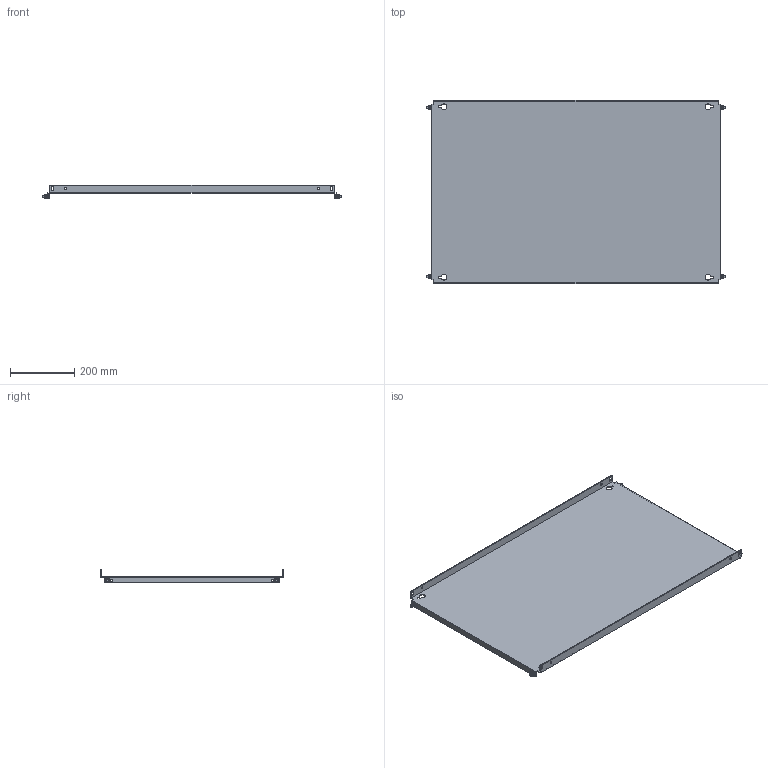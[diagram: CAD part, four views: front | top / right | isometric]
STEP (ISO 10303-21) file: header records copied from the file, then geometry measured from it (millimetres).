
FILE_DESCRIPTION(('Open CASCADE Model'),'2;1');
FILE_NAME('Open CASCADE Shape Model','2025-02-20T13:24:39',('Author'),( 'Open CASCADE'),'Open CASCADE STEP processor 7.8','Open CASCADE 7.8' ,'Unknown');
FILE_SCHEMA(('AUTOMOTIVE_DESIGN { 1 0 10303 214 1 1 1 1 }'));
Length unit declared in the file: millimetre
Products named in the file (4): Compound1; Solid1; Solid2; Solid3
Assembly tree (9 placements, depth 2):
  Compound1
    Solid1
    Solid2  x4
    Solid3  x4
Bounding box: 928 x 569 x 43 mm (x, y, z)
Volume: 1147503.7 mm3; surface area: 1154205.8 mm2
Topology: 9 solids, 9 shells, 306 faces, 746 edges, 462 vertices
Faces by surface type: plane 150, cone 68, bspline 48, cylinder 28, torus 12
Full cylindrical faces by diameter (mm): 5 x4, 6 x8, 7 x12
Entity records: 4844 total; most frequent: CARTESIAN_POINT 1361, ORIENTED_EDGE 742, DIRECTION 628, EDGE_CURVE 371, VERTEX_POINT 240, LINE 216, VECTOR 216, AXIS2_PLACEMENT_3D 206
